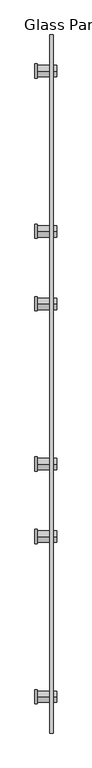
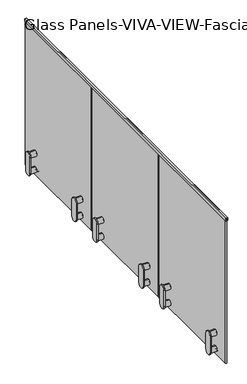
"""IFC4 building model written with IfcOpenShell, lengths in millimetres: railing geometry, Glass Panels-VIVA-VIEW-Fascia-Plate-Straight."""

from ifc_helpers import new_model, si_unit, point, frame, frame_2d, origin, place, context, project, spatial, polyline, circle_curve, trimmed, segment, composite_curve, outline, extrude, source, transform, mapped, element, save
from ifc_brep_helpers import plane_surface, cylinder_surface, advanced_brep


def glass_panels_viva_view_fascia_plate_straight_46a01e7d(model_context):
    return source(origin(), model_context, "Body", "SolidModel", [
        extrude(outline(polyline([(4140.2, 25056.3264963), (4114.8, 25056.3264963), (4114.8, 25057.9139963), (4138.6125, 25057.9139963), (4138.6125, 25070.6139963), (4114.8, 25070.6139963), (4114.8, 25072.2014963), (4140.2, 25072.2014963), (4140.2, 25056.3264963)])), frame((0.0, -11437.3346054, 0.0), z_axis=(0.0, 1.0, 0.0), x_axis=(0.0, 0.0, 1.0)), (0.0, 0.0, 1.0), 3098.8),
        advanced_brep(
        [(25088.0762024, -9210.2182255, 2794.0), (25088.0762024, -9210.2182255, 2844.8), (25088.0762024, -9210.2182255, 2819.4), (25070.6137024, -9210.2182255, 2794.0), (25070.6137024, -9210.2182255, 2844.8), (25070.6137024, -9210.2182255, 2813.685), (25070.6137024, -9210.2182255, 2825.115), (25057.9137024, -9210.2182255, 2813.685), (25057.9137024, -9210.2182255, 2825.115), (25057.9137024, -9210.2182255, 2794.0), (25057.9137024, -9210.2182255, 2844.8), (25000.7638494, -9210.2182255, 2794.0), (25000.7638494, -9210.2182255, 2844.8), (25000.7638494, -9210.2182255, 2819.4)],
        [
            (0, 1, circle_curve(frame((25088.0762024, -9210.2182255, 2819.4), z_axis=(1.0, 0.0, 0.0), x_axis=(0.0, 0.0, 1.0)), 25.4)),
            (1, 2),
            (2, 0),
            (1, 0, circle_curve(frame((25088.0762024, -9210.2182255, 2819.4), z_axis=(1.0, 0.0, 0.0), x_axis=(0.0, 0.0, 1.0)), 25.4)),
            (3, 4, circle_curve(frame((25070.6137024, -9210.2182255, 2819.4), z_axis=(1.0, 0.0, 0.0), x_axis=(0.0, 0.0, 1.0)), 25.4)),
            (4, 1),
            (0, 3),
            (4, 3, circle_curve(frame((25070.6137024, -9210.2182255, 2819.4), z_axis=(1.0, 0.0, 0.0), x_axis=(0.0, 0.0, 1.0)), 25.4)),
            (5, 6, circle_curve(frame((25070.6137024, -9210.2182255, 2819.4), z_axis=(1.0, 0.0, 0.0), x_axis=(0.0, 0.0, 1.0)), 5.715)),
            (6, 4),
            (3, 5),
            (6, 5, circle_curve(frame((25070.6137024, -9210.2182255, 2819.4), z_axis=(1.0, 0.0, 0.0), x_axis=(0.0, 0.0, 1.0)), 5.715)),
            (7, 8, circle_curve(frame((25057.9137024, -9210.2182255, 2819.4), z_axis=(1.0, 0.0, 0.0), x_axis=(0.0, 0.0, 1.0)), 5.715)),
            (8, 6),
            (5, 7),
            (8, 7, circle_curve(frame((25057.9137024, -9210.2182255, 2819.4), z_axis=(1.0, 0.0, 0.0), x_axis=(0.0, 0.0, 1.0)), 5.715)),
            (9, 10, circle_curve(frame((25057.9137024, -9210.2182255, 2819.4), z_axis=(1.0, 0.0, 0.0), x_axis=(0.0, 0.0, 1.0)), 25.4)),
            (10, 8),
            (7, 9),
            (10, 9, circle_curve(frame((25057.9137024, -9210.2182255, 2819.4), z_axis=(1.0, 0.0, 0.0), x_axis=(0.0, 0.0, 1.0)), 25.4)),
            (11, 12, circle_curve(frame((25000.7638494, -9210.2182255, 2819.4), z_axis=(1.0, 0.0, 0.0), x_axis=(0.0, 0.0, 1.0)), 25.4)),
            (12, 10),
            (9, 11),
            (12, 11, circle_curve(frame((25000.7638494, -9210.2182255, 2819.4), z_axis=(1.0, 0.0, 0.0), x_axis=(0.0, 0.0, 1.0)), 25.4)),
            (13, 12),
            (11, 13),
        ],
        [
            plane_surface(frame((25088.0762024, -9210.2182255, 2819.4), z_axis=(1.0, 0.0, 0.0), x_axis=(0.0, 0.0, 1.0))),
            cylinder_surface(frame((25156.3388494, -9210.2182255, 2819.4), z_axis=(-1.0, 0.0, 0.0), x_axis=(0.0, 0.0, 1.0)), 25.4),
            plane_surface(frame((25070.6137024, -9210.2182255, 2819.4), z_axis=(-1.0, 0.0, 0.0), x_axis=(0.0, 0.0, 1.0))),
            cylinder_surface(frame((25156.3388494, -9210.2182255, 2819.4), z_axis=(-1.0, 0.0, 0.0), x_axis=(0.0, 0.0, 1.0)), 5.715),
            plane_surface(frame((25057.9137024, -9210.2182255, 2819.4), z_axis=(1.0, 0.0, 0.0), x_axis=(0.0, 0.0, 1.0))),
            plane_surface(frame((25000.7638494, -9210.2182255, 2819.4), z_axis=(-1.0, 0.0, 0.0), x_axis=(0.0, 0.0, 1.0))),
        ],
        [
            (0, [[1, 2, 3]]),
            (0, [[4, -3, -2]]),
            (1, [[5, 6, -1, 7]]),
            (1, [[8, -7, -4, -6]]),
            (2, [[9, 10, -5, 11]]),
            (2, [[12, -11, -8, -10]]),
            (3, [[13, 14, -9, 15]]),
            (3, [[16, -15, -12, -14]]),
            (4, [[17, 18, -13, 19]]),
            (4, [[20, -19, -16, -18]]),
            (1, [[21, 22, -17, 23]]),
            (1, [[24, -23, -20, -22]]),
            (5, [[25, -21, 26]]),
            (5, [[-26, -24, -25]]),
        ],
    ),
        advanced_brep(
        [(25070.6137024, -9210.2182255, 2966.085), (25070.6137024, -9210.2182255, 2977.515), (25070.6137024, -9210.2182255, 2997.2), (25070.6137024, -9210.2182255, 2946.4), (25057.9137024, -9210.2182255, 2966.085), (25057.9137024, -9210.2182255, 2977.515), (25057.9137024, -9210.2182255, 2946.4), (25057.9137024, -9210.2182255, 2997.2), (25000.7638494, -9210.2182255, 2946.4), (25000.7638494, -9210.2182255, 2997.2), (25000.7638494, -9210.2182255, 2971.8), (25088.0762024, -9210.2182255, 2946.4), (25088.0762024, -9210.2182255, 2997.2), (25088.0762024, -9210.2182255, 2971.8)],
        [
            (0, 1, circle_curve(frame((25070.6137024, -9210.2182255, 2971.8), z_axis=(1.0, 0.0, 0.0), x_axis=(0.0, 0.0, 1.0)), 5.715)),
            (1, 2),
            (2, 3, circle_curve(frame((25070.6137024, -9210.2182255, 2971.8), z_axis=(-1.0, 0.0, 0.0), x_axis=(0.0, 0.0, 1.0)), 25.4)),
            (3, 0),
            (1, 0, circle_curve(frame((25070.6137024, -9210.2182255, 2971.8), z_axis=(1.0, 0.0, 0.0), x_axis=(0.0, 0.0, 1.0)), 5.715)),
            (3, 2, circle_curve(frame((25070.6137024, -9210.2182255, 2971.8), z_axis=(-1.0, 0.0, 0.0), x_axis=(0.0, 0.0, 1.0)), 25.4)),
            (4, 5, circle_curve(frame((25057.9137024, -9210.2182255, 2971.8), z_axis=(1.0, 0.0, 0.0), x_axis=(0.0, 0.0, 1.0)), 5.715)),
            (5, 1),
            (0, 4),
            (5, 4, circle_curve(frame((25057.9137024, -9210.2182255, 2971.8), z_axis=(1.0, 0.0, 0.0), x_axis=(0.0, 0.0, 1.0)), 5.715)),
            (6, 7, circle_curve(frame((25057.9137024, -9210.2182255, 2971.8), z_axis=(1.0, 0.0, 0.0), x_axis=(0.0, 0.0, 1.0)), 25.4)),
            (7, 5),
            (4, 6),
            (7, 6, circle_curve(frame((25057.9137024, -9210.2182255, 2971.8), z_axis=(1.0, 0.0, 0.0), x_axis=(0.0, 0.0, 1.0)), 25.4)),
            (8, 9, circle_curve(frame((25000.7638494, -9210.2182255, 2971.8), z_axis=(1.0, 0.0, 0.0), x_axis=(0.0, 0.0, 1.0)), 25.4)),
            (9, 7),
            (6, 8),
            (9, 8, circle_curve(frame((25000.7638494, -9210.2182255, 2971.8), z_axis=(1.0, 0.0, 0.0), x_axis=(0.0, 0.0, 1.0)), 25.4)),
            (10, 9),
            (8, 10),
            (11, 12, circle_curve(frame((25088.0762024, -9210.2182255, 2971.8), z_axis=(1.0, 0.0, 0.0), x_axis=(0.0, 0.0, 1.0)), 25.4)),
            (12, 13),
            (13, 11),
            (12, 11, circle_curve(frame((25088.0762024, -9210.2182255, 2971.8), z_axis=(1.0, 0.0, 0.0), x_axis=(0.0, 0.0, 1.0)), 25.4)),
            (2, 12),
            (11, 3),
        ],
        [
            plane_surface(frame((25070.6137024, -9210.2182255, 2971.8), z_axis=(-1.0, 0.0, 0.0), x_axis=(0.0, 0.0, 1.0))),
            cylinder_surface(frame((25156.3388494, -9210.2182255, 2971.8), z_axis=(-1.0, 0.0, 0.0), x_axis=(0.0, 0.0, 1.0)), 5.715),
            plane_surface(frame((25057.9137024, -9210.2182255, 2971.8), z_axis=(1.0, 0.0, 0.0), x_axis=(0.0, 0.0, 1.0))),
            cylinder_surface(frame((25156.3388494, -9210.2182255, 2971.8), z_axis=(-1.0, 0.0, 0.0), x_axis=(0.0, 0.0, 1.0)), 25.4),
            plane_surface(frame((25000.7638494, -9210.2182255, 2971.8), z_axis=(-1.0, 0.0, 0.0), x_axis=(0.0, 0.0, 1.0))),
            plane_surface(frame((25088.0762024, -9210.2182255, 2971.8), z_axis=(1.0, 0.0, 0.0), x_axis=(0.0, 0.0, 1.0))),
        ],
        [
            (0, [[1, 2, 3, 4]]),
            (0, [[5, -4, 6, -2]]),
            (1, [[7, 8, -1, 9]]),
            (1, [[10, -9, -5, -8]]),
            (2, [[11, 12, -7, 13]]),
            (2, [[14, -13, -10, -12]]),
            (3, [[15, 16, -11, 17]]),
            (3, [[18, -17, -14, -16]]),
            (4, [[19, -15, 20]]),
            (4, [[-20, -18, -19]]),
            (5, [[21, 22, 23]]),
            (5, [[24, -23, -22]]),
            (3, [[-3, 25, -21, 26]]),
            (3, [[-6, -26, -24, -25]]),
        ],
    ),
        extrude(outline(composite_curve([segment(trimmed(circle_curve(frame_2d((-9210.2182255, 2971.8)), 31.75), [point((-9241.9682255, 2971.8))], [point((-9178.4682255, 2971.8))], False, "CARTESIAN"), True, "CONTINUOUS"), segment(polyline([(-9178.4682255, 2971.8), (-9178.4682255, 2819.4)]), True, "CONTINUOUS"), segment(trimmed(circle_curve(frame_2d((-9210.2182255, 2819.4)), 31.75), [point((-9178.4682255, 2819.4))], [point((-9241.9682255, 2819.4))], False, "CARTESIAN"), True, "CONTINUOUS"), segment(polyline([(-9241.9682255, 2819.4), (-9241.9682255, 2971.8)]), True, "CONTINUOUS")], self_intersect=False)), frame((24991.2388494, 0.0, 0.0), z_axis=(1.0, 0.0, 0.0), x_axis=(0.0, 1.0, 0.0)), (0.0, 0.0, 1.0), 9.525),
        advanced_brep(
        [(25088.0762024, -8499.0182255, 2794.0), (25088.0762024, -8499.0182255, 2844.8), (25088.0762024, -8499.0182255, 2819.4), (25070.6137024, -8499.0182255, 2794.0), (25070.6137024, -8499.0182255, 2844.8), (25070.6137024, -8499.0182255, 2813.685), (25070.6137024, -8499.0182255, 2825.115), (25057.9137024, -8499.0182255, 2813.685), (25057.9137024, -8499.0182255, 2825.115), (25057.9137024, -8499.0182255, 2794.0), (25057.9137024, -8499.0182255, 2844.8), (25000.7638494, -8499.0182255, 2794.0), (25000.7638494, -8499.0182255, 2844.8), (25000.7638494, -8499.0182255, 2819.4)],
        [
            (0, 1, circle_curve(frame((25088.0762024, -8499.0182255, 2819.4), z_axis=(1.0, 0.0, 0.0), x_axis=(0.0, 0.0, 1.0)), 25.4)),
            (1, 2),
            (2, 0),
            (1, 0, circle_curve(frame((25088.0762024, -8499.0182255, 2819.4), z_axis=(1.0, 0.0, 0.0), x_axis=(0.0, 0.0, 1.0)), 25.4)),
            (3, 4, circle_curve(frame((25070.6137024, -8499.0182255, 2819.4), z_axis=(1.0, 0.0, 0.0), x_axis=(0.0, 0.0, 1.0)), 25.4)),
            (4, 1),
            (0, 3),
            (4, 3, circle_curve(frame((25070.6137024, -8499.0182255, 2819.4), z_axis=(1.0, 0.0, 0.0), x_axis=(0.0, 0.0, 1.0)), 25.4)),
            (5, 6, circle_curve(frame((25070.6137024, -8499.0182255, 2819.4), z_axis=(1.0, 0.0, 0.0), x_axis=(0.0, 0.0, 1.0)), 5.715)),
            (6, 4),
            (3, 5),
            (6, 5, circle_curve(frame((25070.6137024, -8499.0182255, 2819.4), z_axis=(1.0, 0.0, 0.0), x_axis=(0.0, 0.0, 1.0)), 5.715)),
            (7, 8, circle_curve(frame((25057.9137024, -8499.0182255, 2819.4), z_axis=(1.0, 0.0, 0.0), x_axis=(0.0, 0.0, 1.0)), 5.715)),
            (8, 6),
            (5, 7),
            (8, 7, circle_curve(frame((25057.9137024, -8499.0182255, 2819.4), z_axis=(1.0, 0.0, 0.0), x_axis=(0.0, 0.0, 1.0)), 5.715)),
            (9, 10, circle_curve(frame((25057.9137024, -8499.0182255, 2819.4), z_axis=(1.0, 0.0, 0.0), x_axis=(0.0, 0.0, 1.0)), 25.4)),
            (10, 8),
            (7, 9),
            (10, 9, circle_curve(frame((25057.9137024, -8499.0182255, 2819.4), z_axis=(1.0, 0.0, 0.0), x_axis=(0.0, 0.0, 1.0)), 25.4)),
            (11, 12, circle_curve(frame((25000.7638494, -8499.0182255, 2819.4), z_axis=(1.0, 0.0, 0.0), x_axis=(0.0, 0.0, 1.0)), 25.4)),
            (12, 10),
            (9, 11),
            (12, 11, circle_curve(frame((25000.7638494, -8499.0182255, 2819.4), z_axis=(1.0, 0.0, 0.0), x_axis=(0.0, 0.0, 1.0)), 25.4)),
            (13, 12),
            (11, 13),
        ],
        [
            plane_surface(frame((25088.0762024, -8499.0182255, 2819.4), z_axis=(1.0, 0.0, 0.0), x_axis=(0.0, 0.0, 1.0))),
            cylinder_surface(frame((25156.3388494, -8499.0182255, 2819.4), z_axis=(-1.0, 0.0, 0.0), x_axis=(0.0, 0.0, 1.0)), 25.4),
            plane_surface(frame((25070.6137024, -8499.0182255, 2819.4), z_axis=(-1.0, 0.0, 0.0), x_axis=(0.0, 0.0, 1.0))),
            cylinder_surface(frame((25156.3388494, -8499.0182255, 2819.4), z_axis=(-1.0, 0.0, 0.0), x_axis=(0.0, 0.0, 1.0)), 5.715),
            plane_surface(frame((25057.9137024, -8499.0182255, 2819.4), z_axis=(1.0, 0.0, 0.0), x_axis=(0.0, 0.0, 1.0))),
            plane_surface(frame((25000.7638494, -8499.0182255, 2819.4), z_axis=(-1.0, 0.0, 0.0), x_axis=(0.0, 0.0, 1.0))),
        ],
        [
            (0, [[1, 2, 3]]),
            (0, [[4, -3, -2]]),
            (1, [[5, 6, -1, 7]]),
            (1, [[8, -7, -4, -6]]),
            (2, [[9, 10, -5, 11]]),
            (2, [[12, -11, -8, -10]]),
            (3, [[13, 14, -9, 15]]),
            (3, [[16, -15, -12, -14]]),
            (4, [[17, 18, -13, 19]]),
            (4, [[20, -19, -16, -18]]),
            (1, [[21, 22, -17, 23]]),
            (1, [[24, -23, -20, -22]]),
            (5, [[25, -21, 26]]),
            (5, [[-26, -24, -25]]),
        ],
    ),
        advanced_brep(
        [(25070.6137024, -8499.0182255, 2966.085), (25070.6137024, -8499.0182255, 2977.515), (25070.6137024, -8499.0182255, 2997.2), (25070.6137024, -8499.0182255, 2946.4), (25057.9137024, -8499.0182255, 2966.085), (25057.9137024, -8499.0182255, 2977.515), (25057.9137024, -8499.0182255, 2946.4), (25057.9137024, -8499.0182255, 2997.2), (25000.7638494, -8499.0182255, 2946.4), (25000.7638494, -8499.0182255, 2997.2), (25000.7638494, -8499.0182255, 2971.8), (25088.0762024, -8499.0182255, 2946.4), (25088.0762024, -8499.0182255, 2997.2), (25088.0762024, -8499.0182255, 2971.8)],
        [
            (0, 1, circle_curve(frame((25070.6137024, -8499.0182255, 2971.8), z_axis=(1.0, 0.0, 0.0), x_axis=(0.0, 0.0, 1.0)), 5.715)),
            (1, 2),
            (2, 3, circle_curve(frame((25070.6137024, -8499.0182255, 2971.8), z_axis=(-1.0, 0.0, 0.0), x_axis=(0.0, 0.0, 1.0)), 25.4)),
            (3, 0),
            (1, 0, circle_curve(frame((25070.6137024, -8499.0182255, 2971.8), z_axis=(1.0, 0.0, 0.0), x_axis=(0.0, 0.0, 1.0)), 5.715)),
            (3, 2, circle_curve(frame((25070.6137024, -8499.0182255, 2971.8), z_axis=(-1.0, 0.0, 0.0), x_axis=(0.0, 0.0, 1.0)), 25.4)),
            (4, 5, circle_curve(frame((25057.9137024, -8499.0182255, 2971.8), z_axis=(1.0, 0.0, 0.0), x_axis=(0.0, 0.0, 1.0)), 5.715)),
            (5, 1),
            (0, 4),
            (5, 4, circle_curve(frame((25057.9137024, -8499.0182255, 2971.8), z_axis=(1.0, 0.0, 0.0), x_axis=(0.0, 0.0, 1.0)), 5.715)),
            (6, 7, circle_curve(frame((25057.9137024, -8499.0182255, 2971.8), z_axis=(1.0, 0.0, 0.0), x_axis=(0.0, 0.0, 1.0)), 25.4)),
            (7, 5),
            (4, 6),
            (7, 6, circle_curve(frame((25057.9137024, -8499.0182255, 2971.8), z_axis=(1.0, 0.0, 0.0), x_axis=(0.0, 0.0, 1.0)), 25.4)),
            (8, 9, circle_curve(frame((25000.7638494, -8499.0182255, 2971.8), z_axis=(1.0, 0.0, 0.0), x_axis=(0.0, 0.0, 1.0)), 25.4)),
            (9, 7),
            (6, 8),
            (9, 8, circle_curve(frame((25000.7638494, -8499.0182255, 2971.8), z_axis=(1.0, 0.0, 0.0), x_axis=(0.0, 0.0, 1.0)), 25.4)),
            (10, 9),
            (8, 10),
            (11, 12, circle_curve(frame((25088.0762024, -8499.0182255, 2971.8), z_axis=(1.0, 0.0, 0.0), x_axis=(0.0, 0.0, 1.0)), 25.4)),
            (12, 13),
            (13, 11),
            (12, 11, circle_curve(frame((25088.0762024, -8499.0182255, 2971.8), z_axis=(1.0, 0.0, 0.0), x_axis=(0.0, 0.0, 1.0)), 25.4)),
            (2, 12),
            (11, 3),
        ],
        [
            plane_surface(frame((25070.6137024, -8499.0182255, 2971.8), z_axis=(-1.0, 0.0, 0.0), x_axis=(0.0, 0.0, 1.0))),
            cylinder_surface(frame((25156.3388494, -8499.0182255, 2971.8), z_axis=(-1.0, 0.0, 0.0), x_axis=(0.0, 0.0, 1.0)), 5.715),
            plane_surface(frame((25057.9137024, -8499.0182255, 2971.8), z_axis=(1.0, 0.0, 0.0), x_axis=(0.0, 0.0, 1.0))),
            cylinder_surface(frame((25156.3388494, -8499.0182255, 2971.8), z_axis=(-1.0, 0.0, 0.0), x_axis=(0.0, 0.0, 1.0)), 25.4),
            plane_surface(frame((25000.7638494, -8499.0182255, 2971.8), z_axis=(-1.0, 0.0, 0.0), x_axis=(0.0, 0.0, 1.0))),
            plane_surface(frame((25088.0762024, -8499.0182255, 2971.8), z_axis=(1.0, 0.0, 0.0), x_axis=(0.0, 0.0, 1.0))),
        ],
        [
            (0, [[1, 2, 3, 4]]),
            (0, [[5, -4, 6, -2]]),
            (1, [[7, 8, -1, 9]]),
            (1, [[10, -9, -5, -8]]),
            (2, [[11, 12, -7, 13]]),
            (2, [[14, -13, -10, -12]]),
            (3, [[15, 16, -11, 17]]),
            (3, [[18, -17, -14, -16]]),
            (4, [[19, -15, 20]]),
            (4, [[-20, -18, -19]]),
            (5, [[21, 22, 23]]),
            (5, [[24, -23, -22]]),
            (3, [[-3, 25, -21, 26]]),
            (3, [[-6, -26, -24, -25]]),
        ],
    ),
        extrude(outline(composite_curve([segment(trimmed(circle_curve(frame_2d((-8499.0182255, 2971.8)), 31.75), [point((-8530.7682255, 2971.8))], [point((-8467.2682255, 2971.8))], False, "CARTESIAN"), True, "CONTINUOUS"), segment(polyline([(-8467.2682255, 2971.8), (-8467.2682255, 2819.4)]), True, "CONTINUOUS"), segment(trimmed(circle_curve(frame_2d((-8499.0182255, 2819.4)), 31.75), [point((-8467.2682255, 2819.4))], [point((-8530.7682255, 2819.4))], False, "CARTESIAN"), True, "CONTINUOUS"), segment(polyline([(-8530.7682255, 2819.4), (-8530.7682255, 2971.8)]), True, "CONTINUOUS")], self_intersect=False)), frame((24991.2388494, 0.0, 0.0), z_axis=(1.0, 0.0, 0.0), x_axis=(0.0, 1.0, 0.0)), (0.0, 0.0, 1.0), 9.525),
        extrude(outline(polyline([(25057.9139963, -9362.6182255), (25057.9139963, -8346.6182255), (25070.6139963, -8346.6182255), (25070.6139963, -9362.6182255), (25057.9139963, -9362.6182255)])), frame((0.0, 0.0, 2768.6), z_axis=(0.0, 0.0, 1.0), x_axis=(1.0, 0.0, 0.0)), (0.0, 0.0, 1.0), 1370.0125),
        advanced_brep(
        [(25088.0762024, -10243.1515588, 2794.0), (25088.0762024, -10243.1515588, 2844.8), (25088.0762024, -10243.1515588, 2819.4), (25070.6137024, -10243.1515588, 2794.0), (25070.6137024, -10243.1515588, 2844.8), (25070.6137024, -10243.1515588, 2813.685), (25070.6137024, -10243.1515588, 2825.115), (25057.9137024, -10243.1515588, 2813.685), (25057.9137024, -10243.1515588, 2825.115), (25057.9137024, -10243.1515588, 2794.0), (25057.9137024, -10243.1515588, 2844.8), (25000.7638494, -10243.1515588, 2794.0), (25000.7638494, -10243.1515588, 2844.8), (25000.7638494, -10243.1515588, 2819.4)],
        [
            (0, 1, circle_curve(frame((25088.0762024, -10243.1515588, 2819.4), z_axis=(1.0, 0.0, 0.0), x_axis=(0.0, 0.0, 1.0)), 25.4)),
            (1, 2),
            (2, 0),
            (1, 0, circle_curve(frame((25088.0762024, -10243.1515588, 2819.4), z_axis=(1.0, 0.0, 0.0), x_axis=(0.0, 0.0, 1.0)), 25.4)),
            (3, 4, circle_curve(frame((25070.6137024, -10243.1515588, 2819.4), z_axis=(1.0, 0.0, 0.0), x_axis=(0.0, 0.0, 1.0)), 25.4)),
            (4, 1),
            (0, 3),
            (4, 3, circle_curve(frame((25070.6137024, -10243.1515588, 2819.4), z_axis=(1.0, 0.0, 0.0), x_axis=(0.0, 0.0, 1.0)), 25.4)),
            (5, 6, circle_curve(frame((25070.6137024, -10243.1515588, 2819.4), z_axis=(1.0, 0.0, 0.0), x_axis=(0.0, 0.0, 1.0)), 5.715)),
            (6, 4),
            (3, 5),
            (6, 5, circle_curve(frame((25070.6137024, -10243.1515588, 2819.4), z_axis=(1.0, 0.0, 0.0), x_axis=(0.0, 0.0, 1.0)), 5.715)),
            (7, 8, circle_curve(frame((25057.9137024, -10243.1515588, 2819.4), z_axis=(1.0, 0.0, 0.0), x_axis=(0.0, 0.0, 1.0)), 5.715)),
            (8, 6),
            (5, 7),
            (8, 7, circle_curve(frame((25057.9137024, -10243.1515588, 2819.4), z_axis=(1.0, 0.0, 0.0), x_axis=(0.0, 0.0, 1.0)), 5.715)),
            (9, 10, circle_curve(frame((25057.9137024, -10243.1515588, 2819.4), z_axis=(1.0, 0.0, 0.0), x_axis=(0.0, 0.0, 1.0)), 25.4)),
            (10, 8),
            (7, 9),
            (10, 9, circle_curve(frame((25057.9137024, -10243.1515588, 2819.4), z_axis=(1.0, 0.0, 0.0), x_axis=(0.0, 0.0, 1.0)), 25.4)),
            (11, 12, circle_curve(frame((25000.7638494, -10243.1515588, 2819.4), z_axis=(1.0, 0.0, 0.0), x_axis=(0.0, 0.0, 1.0)), 25.4)),
            (12, 10),
            (9, 11),
            (12, 11, circle_curve(frame((25000.7638494, -10243.1515588, 2819.4), z_axis=(1.0, 0.0, 0.0), x_axis=(0.0, 0.0, 1.0)), 25.4)),
            (13, 12),
            (11, 13),
        ],
        [
            plane_surface(frame((25088.0762024, -10243.1515588, 2819.4), z_axis=(1.0, 0.0, 0.0), x_axis=(0.0, 0.0, 1.0))),
            cylinder_surface(frame((25156.3388494, -10243.1515588, 2819.4), z_axis=(-1.0, 0.0, 0.0), x_axis=(0.0, 0.0, 1.0)), 25.4),
            plane_surface(frame((25070.6137024, -10243.1515588, 2819.4), z_axis=(-1.0, 0.0, 0.0), x_axis=(0.0, 0.0, 1.0))),
            cylinder_surface(frame((25156.3388494, -10243.1515588, 2819.4), z_axis=(-1.0, 0.0, 0.0), x_axis=(0.0, 0.0, 1.0)), 5.715),
            plane_surface(frame((25057.9137024, -10243.1515588, 2819.4), z_axis=(1.0, 0.0, 0.0), x_axis=(0.0, 0.0, 1.0))),
            plane_surface(frame((25000.7638494, -10243.1515588, 2819.4), z_axis=(-1.0, 0.0, 0.0), x_axis=(0.0, 0.0, 1.0))),
        ],
        [
            (0, [[1, 2, 3]]),
            (0, [[4, -3, -2]]),
            (1, [[5, 6, -1, 7]]),
            (1, [[8, -7, -4, -6]]),
            (2, [[9, 10, -5, 11]]),
            (2, [[12, -11, -8, -10]]),
            (3, [[13, 14, -9, 15]]),
            (3, [[16, -15, -12, -14]]),
            (4, [[17, 18, -13, 19]]),
            (4, [[20, -19, -16, -18]]),
            (1, [[21, 22, -17, 23]]),
            (1, [[24, -23, -20, -22]]),
            (5, [[25, -21, 26]]),
            (5, [[-26, -24, -25]]),
        ],
    ),
        advanced_brep(
        [(25070.6137024, -10243.1515588, 2966.085), (25070.6137024, -10243.1515588, 2977.515), (25070.6137024, -10243.1515588, 2997.2), (25070.6137024, -10243.1515588, 2946.4), (25057.9137024, -10243.1515588, 2966.085), (25057.9137024, -10243.1515588, 2977.515), (25057.9137024, -10243.1515588, 2946.4), (25057.9137024, -10243.1515588, 2997.2), (25000.7638494, -10243.1515588, 2946.4), (25000.7638494, -10243.1515588, 2997.2), (25000.7638494, -10243.1515588, 2971.8), (25088.0762024, -10243.1515588, 2946.4), (25088.0762024, -10243.1515588, 2997.2), (25088.0762024, -10243.1515588, 2971.8)],
        [
            (0, 1, circle_curve(frame((25070.6137024, -10243.1515588, 2971.8), z_axis=(1.0, 0.0, 0.0), x_axis=(0.0, 0.0, 1.0)), 5.715)),
            (1, 2),
            (2, 3, circle_curve(frame((25070.6137024, -10243.1515588, 2971.8), z_axis=(-1.0, 0.0, 0.0), x_axis=(0.0, 0.0, 1.0)), 25.4)),
            (3, 0),
            (1, 0, circle_curve(frame((25070.6137024, -10243.1515588, 2971.8), z_axis=(1.0, 0.0, 0.0), x_axis=(0.0, 0.0, 1.0)), 5.715)),
            (3, 2, circle_curve(frame((25070.6137024, -10243.1515588, 2971.8), z_axis=(-1.0, 0.0, 0.0), x_axis=(0.0, 0.0, 1.0)), 25.4)),
            (4, 5, circle_curve(frame((25057.9137024, -10243.1515588, 2971.8), z_axis=(1.0, 0.0, 0.0), x_axis=(0.0, 0.0, 1.0)), 5.715)),
            (5, 1),
            (0, 4),
            (5, 4, circle_curve(frame((25057.9137024, -10243.1515588, 2971.8), z_axis=(1.0, 0.0, 0.0), x_axis=(0.0, 0.0, 1.0)), 5.715)),
            (6, 7, circle_curve(frame((25057.9137024, -10243.1515588, 2971.8), z_axis=(1.0, 0.0, 0.0), x_axis=(0.0, 0.0, 1.0)), 25.4)),
            (7, 5),
            (4, 6),
            (7, 6, circle_curve(frame((25057.9137024, -10243.1515588, 2971.8), z_axis=(1.0, 0.0, 0.0), x_axis=(0.0, 0.0, 1.0)), 25.4)),
            (8, 9, circle_curve(frame((25000.7638494, -10243.1515588, 2971.8), z_axis=(1.0, 0.0, 0.0), x_axis=(0.0, 0.0, 1.0)), 25.4)),
            (9, 7),
            (6, 8),
            (9, 8, circle_curve(frame((25000.7638494, -10243.1515588, 2971.8), z_axis=(1.0, 0.0, 0.0), x_axis=(0.0, 0.0, 1.0)), 25.4)),
            (10, 9),
            (8, 10),
            (11, 12, circle_curve(frame((25088.0762024, -10243.1515588, 2971.8), z_axis=(1.0, 0.0, 0.0), x_axis=(0.0, 0.0, 1.0)), 25.4)),
            (12, 13),
            (13, 11),
            (12, 11, circle_curve(frame((25088.0762024, -10243.1515588, 2971.8), z_axis=(1.0, 0.0, 0.0), x_axis=(0.0, 0.0, 1.0)), 25.4)),
            (2, 12),
            (11, 3),
        ],
        [
            plane_surface(frame((25070.6137024, -10243.1515588, 2971.8), z_axis=(-1.0, 0.0, 0.0), x_axis=(0.0, 0.0, 1.0))),
            cylinder_surface(frame((25156.3388494, -10243.1515588, 2971.8), z_axis=(-1.0, 0.0, 0.0), x_axis=(0.0, 0.0, 1.0)), 5.715),
            plane_surface(frame((25057.9137024, -10243.1515588, 2971.8), z_axis=(1.0, 0.0, 0.0), x_axis=(0.0, 0.0, 1.0))),
            cylinder_surface(frame((25156.3388494, -10243.1515588, 2971.8), z_axis=(-1.0, 0.0, 0.0), x_axis=(0.0, 0.0, 1.0)), 25.4),
            plane_surface(frame((25000.7638494, -10243.1515588, 2971.8), z_axis=(-1.0, 0.0, 0.0), x_axis=(0.0, 0.0, 1.0))),
            plane_surface(frame((25088.0762024, -10243.1515588, 2971.8), z_axis=(1.0, 0.0, 0.0), x_axis=(0.0, 0.0, 1.0))),
        ],
        [
            (0, [[1, 2, 3, 4]]),
            (0, [[5, -4, 6, -2]]),
            (1, [[7, 8, -1, 9]]),
            (1, [[10, -9, -5, -8]]),
            (2, [[11, 12, -7, 13]]),
            (2, [[14, -13, -10, -12]]),
            (3, [[15, 16, -11, 17]]),
            (3, [[18, -17, -14, -16]]),
            (4, [[19, -15, 20]]),
            (4, [[-20, -18, -19]]),
            (5, [[21, 22, 23]]),
            (5, [[24, -23, -22]]),
            (3, [[-3, 25, -21, 26]]),
            (3, [[-6, -26, -24, -25]]),
        ],
    ),
        extrude(outline(composite_curve([segment(trimmed(circle_curve(frame_2d((-10243.1515588, 2971.8)), 31.75), [point((-10274.9015588, 2971.8))], [point((-10211.4015588, 2971.8))], False, "CARTESIAN"), True, "CONTINUOUS"), segment(polyline([(-10211.4015588, 2971.8), (-10211.4015588, 2819.4)]), True, "CONTINUOUS"), segment(trimmed(circle_curve(frame_2d((-10243.1515588, 2819.4)), 31.75), [point((-10211.4015588, 2819.4))], [point((-10274.9015588, 2819.4))], False, "CARTESIAN"), True, "CONTINUOUS"), segment(polyline([(-10274.9015588, 2819.4), (-10274.9015588, 2971.8)]), True, "CONTINUOUS")], self_intersect=False)), frame((24991.2388494, 0.0, 0.0), z_axis=(1.0, 0.0, 0.0), x_axis=(0.0, 1.0, 0.0)), (0.0, 0.0, 1.0), 9.525),
        advanced_brep(
        [(25088.0762024, -9531.9515588, 2794.0), (25088.0762024, -9531.9515588, 2844.8), (25088.0762024, -9531.9515588, 2819.4), (25070.6137024, -9531.9515588, 2794.0), (25070.6137024, -9531.9515588, 2844.8), (25070.6137024, -9531.9515588, 2813.685), (25070.6137024, -9531.9515588, 2825.115), (25057.9137024, -9531.9515588, 2813.685), (25057.9137024, -9531.9515588, 2825.115), (25057.9137024, -9531.9515588, 2794.0), (25057.9137024, -9531.9515588, 2844.8), (25000.7638494, -9531.9515588, 2794.0), (25000.7638494, -9531.9515588, 2844.8), (25000.7638494, -9531.9515588, 2819.4)],
        [
            (0, 1, circle_curve(frame((25088.0762024, -9531.9515588, 2819.4), z_axis=(1.0, 0.0, 0.0), x_axis=(0.0, 0.0, 1.0)), 25.4)),
            (1, 2),
            (2, 0),
            (1, 0, circle_curve(frame((25088.0762024, -9531.9515588, 2819.4), z_axis=(1.0, 0.0, 0.0), x_axis=(0.0, 0.0, 1.0)), 25.4)),
            (3, 4, circle_curve(frame((25070.6137024, -9531.9515588, 2819.4), z_axis=(1.0, 0.0, 0.0), x_axis=(0.0, 0.0, 1.0)), 25.4)),
            (4, 1),
            (0, 3),
            (4, 3, circle_curve(frame((25070.6137024, -9531.9515588, 2819.4), z_axis=(1.0, 0.0, 0.0), x_axis=(0.0, 0.0, 1.0)), 25.4)),
            (5, 6, circle_curve(frame((25070.6137024, -9531.9515588, 2819.4), z_axis=(1.0, 0.0, 0.0), x_axis=(0.0, 0.0, 1.0)), 5.715)),
            (6, 4),
            (3, 5),
            (6, 5, circle_curve(frame((25070.6137024, -9531.9515588, 2819.4), z_axis=(1.0, 0.0, 0.0), x_axis=(0.0, 0.0, 1.0)), 5.715)),
            (7, 8, circle_curve(frame((25057.9137024, -9531.9515588, 2819.4), z_axis=(1.0, 0.0, 0.0), x_axis=(0.0, 0.0, 1.0)), 5.715)),
            (8, 6),
            (5, 7),
            (8, 7, circle_curve(frame((25057.9137024, -9531.9515588, 2819.4), z_axis=(1.0, 0.0, 0.0), x_axis=(0.0, 0.0, 1.0)), 5.715)),
            (9, 10, circle_curve(frame((25057.9137024, -9531.9515588, 2819.4), z_axis=(1.0, 0.0, 0.0), x_axis=(0.0, 0.0, 1.0)), 25.4)),
            (10, 8),
            (7, 9),
            (10, 9, circle_curve(frame((25057.9137024, -9531.9515588, 2819.4), z_axis=(1.0, 0.0, 0.0), x_axis=(0.0, 0.0, 1.0)), 25.4)),
            (11, 12, circle_curve(frame((25000.7638494, -9531.9515588, 2819.4), z_axis=(1.0, 0.0, 0.0), x_axis=(0.0, 0.0, 1.0)), 25.4)),
            (12, 10),
            (9, 11),
            (12, 11, circle_curve(frame((25000.7638494, -9531.9515588, 2819.4), z_axis=(1.0, 0.0, 0.0), x_axis=(0.0, 0.0, 1.0)), 25.4)),
            (13, 12),
            (11, 13),
        ],
        [
            plane_surface(frame((25088.0762024, -9531.9515588, 2819.4), z_axis=(1.0, 0.0, 0.0), x_axis=(0.0, 0.0, 1.0))),
            cylinder_surface(frame((25156.3388494, -9531.9515588, 2819.4), z_axis=(-1.0, 0.0, 0.0), x_axis=(0.0, 0.0, 1.0)), 25.4),
            plane_surface(frame((25070.6137024, -9531.9515588, 2819.4), z_axis=(-1.0, 0.0, 0.0), x_axis=(0.0, 0.0, 1.0))),
            cylinder_surface(frame((25156.3388494, -9531.9515588, 2819.4), z_axis=(-1.0, 0.0, 0.0), x_axis=(0.0, 0.0, 1.0)), 5.715),
            plane_surface(frame((25057.9137024, -9531.9515588, 2819.4), z_axis=(1.0, 0.0, 0.0), x_axis=(0.0, 0.0, 1.0))),
            plane_surface(frame((25000.7638494, -9531.9515588, 2819.4), z_axis=(-1.0, 0.0, 0.0), x_axis=(0.0, 0.0, 1.0))),
        ],
        [
            (0, [[1, 2, 3]]),
            (0, [[4, -3, -2]]),
            (1, [[5, 6, -1, 7]]),
            (1, [[8, -7, -4, -6]]),
            (2, [[9, 10, -5, 11]]),
            (2, [[12, -11, -8, -10]]),
            (3, [[13, 14, -9, 15]]),
            (3, [[16, -15, -12, -14]]),
            (4, [[17, 18, -13, 19]]),
            (4, [[20, -19, -16, -18]]),
            (1, [[21, 22, -17, 23]]),
            (1, [[24, -23, -20, -22]]),
            (5, [[25, -21, 26]]),
            (5, [[-26, -24, -25]]),
        ],
    ),
        advanced_brep(
        [(25070.6137024, -9531.9515588, 2966.085), (25070.6137024, -9531.9515588, 2977.515), (25070.6137024, -9531.9515588, 2997.2), (25070.6137024, -9531.9515588, 2946.4), (25057.9137024, -9531.9515588, 2966.085), (25057.9137024, -9531.9515588, 2977.515), (25057.9137024, -9531.9515588, 2946.4), (25057.9137024, -9531.9515588, 2997.2), (25000.7638494, -9531.9515588, 2946.4), (25000.7638494, -9531.9515588, 2997.2), (25000.7638494, -9531.9515588, 2971.8), (25088.0762024, -9531.9515588, 2946.4), (25088.0762024, -9531.9515588, 2997.2), (25088.0762024, -9531.9515588, 2971.8)],
        [
            (0, 1, circle_curve(frame((25070.6137024, -9531.9515588, 2971.8), z_axis=(1.0, 0.0, 0.0), x_axis=(0.0, 0.0, 1.0)), 5.715)),
            (1, 2),
            (2, 3, circle_curve(frame((25070.6137024, -9531.9515588, 2971.8), z_axis=(-1.0, 0.0, 0.0), x_axis=(0.0, 0.0, 1.0)), 25.4)),
            (3, 0),
            (1, 0, circle_curve(frame((25070.6137024, -9531.9515588, 2971.8), z_axis=(1.0, 0.0, 0.0), x_axis=(0.0, 0.0, 1.0)), 5.715)),
            (3, 2, circle_curve(frame((25070.6137024, -9531.9515588, 2971.8), z_axis=(-1.0, 0.0, 0.0), x_axis=(0.0, 0.0, 1.0)), 25.4)),
            (4, 5, circle_curve(frame((25057.9137024, -9531.9515588, 2971.8), z_axis=(1.0, 0.0, 0.0), x_axis=(0.0, 0.0, 1.0)), 5.715)),
            (5, 1),
            (0, 4),
            (5, 4, circle_curve(frame((25057.9137024, -9531.9515588, 2971.8), z_axis=(1.0, 0.0, 0.0), x_axis=(0.0, 0.0, 1.0)), 5.715)),
            (6, 7, circle_curve(frame((25057.9137024, -9531.9515588, 2971.8), z_axis=(1.0, 0.0, 0.0), x_axis=(0.0, 0.0, 1.0)), 25.4)),
            (7, 5),
            (4, 6),
            (7, 6, circle_curve(frame((25057.9137024, -9531.9515588, 2971.8), z_axis=(1.0, 0.0, 0.0), x_axis=(0.0, 0.0, 1.0)), 25.4)),
            (8, 9, circle_curve(frame((25000.7638494, -9531.9515588, 2971.8), z_axis=(1.0, 0.0, 0.0), x_axis=(0.0, 0.0, 1.0)), 25.4)),
            (9, 7),
            (6, 8),
            (9, 8, circle_curve(frame((25000.7638494, -9531.9515588, 2971.8), z_axis=(1.0, 0.0, 0.0), x_axis=(0.0, 0.0, 1.0)), 25.4)),
            (10, 9),
            (8, 10),
            (11, 12, circle_curve(frame((25088.0762024, -9531.9515588, 2971.8), z_axis=(1.0, 0.0, 0.0), x_axis=(0.0, 0.0, 1.0)), 25.4)),
            (12, 13),
            (13, 11),
            (12, 11, circle_curve(frame((25088.0762024, -9531.9515588, 2971.8), z_axis=(1.0, 0.0, 0.0), x_axis=(0.0, 0.0, 1.0)), 25.4)),
            (2, 12),
            (11, 3),
        ],
        [
            plane_surface(frame((25070.6137024, -9531.9515588, 2971.8), z_axis=(-1.0, 0.0, 0.0), x_axis=(0.0, 0.0, 1.0))),
            cylinder_surface(frame((25156.3388494, -9531.9515588, 2971.8), z_axis=(-1.0, 0.0, 0.0), x_axis=(0.0, 0.0, 1.0)), 5.715),
            plane_surface(frame((25057.9137024, -9531.9515588, 2971.8), z_axis=(1.0, 0.0, 0.0), x_axis=(0.0, 0.0, 1.0))),
            cylinder_surface(frame((25156.3388494, -9531.9515588, 2971.8), z_axis=(-1.0, 0.0, 0.0), x_axis=(0.0, 0.0, 1.0)), 25.4),
            plane_surface(frame((25000.7638494, -9531.9515588, 2971.8), z_axis=(-1.0, 0.0, 0.0), x_axis=(0.0, 0.0, 1.0))),
            plane_surface(frame((25088.0762024, -9531.9515588, 2971.8), z_axis=(1.0, 0.0, 0.0), x_axis=(0.0, 0.0, 1.0))),
        ],
        [
            (0, [[1, 2, 3, 4]]),
            (0, [[5, -4, 6, -2]]),
            (1, [[7, 8, -1, 9]]),
            (1, [[10, -9, -5, -8]]),
            (2, [[11, 12, -7, 13]]),
            (2, [[14, -13, -10, -12]]),
            (3, [[15, 16, -11, 17]]),
            (3, [[18, -17, -14, -16]]),
            (4, [[19, -15, 20]]),
            (4, [[-20, -18, -19]]),
            (5, [[21, 22, 23]]),
            (5, [[24, -23, -22]]),
            (3, [[-3, 25, -21, 26]]),
            (3, [[-6, -26, -24, -25]]),
        ],
    ),
        extrude(outline(composite_curve([segment(trimmed(circle_curve(frame_2d((-9531.9515588, 2971.8)), 31.75), [point((-9563.7015588, 2971.8))], [point((-9500.2015588, 2971.8))], False, "CARTESIAN"), True, "CONTINUOUS"), segment(polyline([(-9500.2015588, 2971.8), (-9500.2015588, 2819.4)]), True, "CONTINUOUS"), segment(trimmed(circle_curve(frame_2d((-9531.9515588, 2819.4)), 31.75), [point((-9500.2015588, 2819.4))], [point((-9563.7015588, 2819.4))], False, "CARTESIAN"), True, "CONTINUOUS"), segment(polyline([(-9563.7015588, 2819.4), (-9563.7015588, 2971.8)]), True, "CONTINUOUS")], self_intersect=False)), frame((24991.2388494, 0.0, 0.0), z_axis=(1.0, 0.0, 0.0), x_axis=(0.0, 1.0, 0.0)), (0.0, 0.0, 1.0), 9.525),
        extrude(outline(polyline([(25057.9139963, -10395.5515588), (25057.9139963, -9379.5515588), (25070.6139963, -9379.5515588), (25070.6139963, -10395.5515588), (25057.9139963, -10395.5515588)])), frame((0.0, 0.0, 2768.6), z_axis=(0.0, 0.0, 1.0), x_axis=(1.0, 0.0, 0.0)), (0.0, 0.0, 1.0), 1370.0125),
        advanced_brep(
        [(25088.0762024, -11276.0848922, 2794.0), (25088.0762024, -11276.0848922, 2844.8), (25088.0762024, -11276.0848922, 2819.4), (25070.6137024, -11276.0848922, 2794.0), (25070.6137024, -11276.0848922, 2844.8), (25070.6137024, -11276.0848922, 2813.685), (25070.6137024, -11276.0848922, 2825.115), (25057.9137024, -11276.0848922, 2813.685), (25057.9137024, -11276.0848922, 2825.115), (25057.9137024, -11276.0848922, 2794.0), (25057.9137024, -11276.0848922, 2844.8), (25000.7638494, -11276.0848922, 2794.0), (25000.7638494, -11276.0848922, 2844.8), (25000.7638494, -11276.0848922, 2819.4)],
        [
            (0, 1, circle_curve(frame((25088.0762024, -11276.0848922, 2819.4), z_axis=(1.0, 0.0, 0.0), x_axis=(0.0, 0.0, 1.0)), 25.4)),
            (1, 2),
            (2, 0),
            (1, 0, circle_curve(frame((25088.0762024, -11276.0848922, 2819.4), z_axis=(1.0, 0.0, 0.0), x_axis=(0.0, 0.0, 1.0)), 25.4)),
            (3, 4, circle_curve(frame((25070.6137024, -11276.0848922, 2819.4), z_axis=(1.0, 0.0, 0.0), x_axis=(0.0, 0.0, 1.0)), 25.4)),
            (4, 1),
            (0, 3),
            (4, 3, circle_curve(frame((25070.6137024, -11276.0848922, 2819.4), z_axis=(1.0, 0.0, 0.0), x_axis=(0.0, 0.0, 1.0)), 25.4)),
            (5, 6, circle_curve(frame((25070.6137024, -11276.0848922, 2819.4), z_axis=(1.0, 0.0, 0.0), x_axis=(0.0, 0.0, 1.0)), 5.715)),
            (6, 4),
            (3, 5),
            (6, 5, circle_curve(frame((25070.6137024, -11276.0848922, 2819.4), z_axis=(1.0, 0.0, 0.0), x_axis=(0.0, 0.0, 1.0)), 5.715)),
            (7, 8, circle_curve(frame((25057.9137024, -11276.0848922, 2819.4), z_axis=(1.0, 0.0, 0.0), x_axis=(0.0, 0.0, 1.0)), 5.715)),
            (8, 6),
            (5, 7),
            (8, 7, circle_curve(frame((25057.9137024, -11276.0848922, 2819.4), z_axis=(1.0, 0.0, 0.0), x_axis=(0.0, 0.0, 1.0)), 5.715)),
            (9, 10, circle_curve(frame((25057.9137024, -11276.0848922, 2819.4), z_axis=(1.0, 0.0, 0.0), x_axis=(0.0, 0.0, 1.0)), 25.4)),
            (10, 8),
            (7, 9),
            (10, 9, circle_curve(frame((25057.9137024, -11276.0848922, 2819.4), z_axis=(1.0, 0.0, 0.0), x_axis=(0.0, 0.0, 1.0)), 25.4)),
            (11, 12, circle_curve(frame((25000.7638494, -11276.0848922, 2819.4), z_axis=(1.0, 0.0, 0.0), x_axis=(0.0, 0.0, 1.0)), 25.4)),
            (12, 10),
            (9, 11),
            (12, 11, circle_curve(frame((25000.7638494, -11276.0848922, 2819.4), z_axis=(1.0, 0.0, 0.0), x_axis=(0.0, 0.0, 1.0)), 25.4)),
            (13, 12),
            (11, 13),
        ],
        [
            plane_surface(frame((25088.0762024, -11276.0848922, 2819.4), z_axis=(1.0, 0.0, 0.0), x_axis=(0.0, 0.0, 1.0))),
            cylinder_surface(frame((25156.3388494, -11276.0848922, 2819.4), z_axis=(-1.0, 0.0, 0.0), x_axis=(0.0, 0.0, 1.0)), 25.4),
            plane_surface(frame((25070.6137024, -11276.0848922, 2819.4), z_axis=(-1.0, 0.0, 0.0), x_axis=(0.0, 0.0, 1.0))),
            cylinder_surface(frame((25156.3388494, -11276.0848922, 2819.4), z_axis=(-1.0, 0.0, 0.0), x_axis=(0.0, 0.0, 1.0)), 5.715),
            plane_surface(frame((25057.9137024, -11276.0848922, 2819.4), z_axis=(1.0, 0.0, 0.0), x_axis=(0.0, 0.0, 1.0))),
            plane_surface(frame((25000.7638494, -11276.0848922, 2819.4), z_axis=(-1.0, 0.0, 0.0), x_axis=(0.0, 0.0, 1.0))),
        ],
        [
            (0, [[1, 2, 3]]),
            (0, [[4, -3, -2]]),
            (1, [[5, 6, -1, 7]]),
            (1, [[8, -7, -4, -6]]),
            (2, [[9, 10, -5, 11]]),
            (2, [[12, -11, -8, -10]]),
            (3, [[13, 14, -9, 15]]),
            (3, [[16, -15, -12, -14]]),
            (4, [[17, 18, -13, 19]]),
            (4, [[20, -19, -16, -18]]),
            (1, [[21, 22, -17, 23]]),
            (1, [[24, -23, -20, -22]]),
            (5, [[25, -21, 26]]),
            (5, [[-26, -24, -25]]),
        ],
    ),
        advanced_brep(
        [(25070.6137024, -11276.0848922, 2966.085), (25070.6137024, -11276.0848922, 2977.515), (25070.6137024, -11276.0848922, 2997.2), (25070.6137024, -11276.0848922, 2946.4), (25057.9137024, -11276.0848922, 2966.085), (25057.9137024, -11276.0848922, 2977.515), (25057.9137024, -11276.0848922, 2946.4), (25057.9137024, -11276.0848922, 2997.2), (25000.7638494, -11276.0848922, 2946.4), (25000.7638494, -11276.0848922, 2997.2), (25000.7638494, -11276.0848922, 2971.8), (25088.0762024, -11276.0848922, 2946.4), (25088.0762024, -11276.0848922, 2997.2), (25088.0762024, -11276.0848922, 2971.8)],
        [
            (0, 1, circle_curve(frame((25070.6137024, -11276.0848922, 2971.8), z_axis=(1.0, 0.0, 0.0), x_axis=(0.0, 0.0, 1.0)), 5.715)),
            (1, 2),
            (2, 3, circle_curve(frame((25070.6137024, -11276.0848922, 2971.8), z_axis=(-1.0, 0.0, 0.0), x_axis=(0.0, 0.0, 1.0)), 25.4)),
            (3, 0),
            (1, 0, circle_curve(frame((25070.6137024, -11276.0848922, 2971.8), z_axis=(1.0, 0.0, 0.0), x_axis=(0.0, 0.0, 1.0)), 5.715)),
            (3, 2, circle_curve(frame((25070.6137024, -11276.0848922, 2971.8), z_axis=(-1.0, 0.0, 0.0), x_axis=(0.0, 0.0, 1.0)), 25.4)),
            (4, 5, circle_curve(frame((25057.9137024, -11276.0848922, 2971.8), z_axis=(1.0, 0.0, 0.0), x_axis=(0.0, 0.0, 1.0)), 5.715)),
            (5, 1),
            (0, 4),
            (5, 4, circle_curve(frame((25057.9137024, -11276.0848922, 2971.8), z_axis=(1.0, 0.0, 0.0), x_axis=(0.0, 0.0, 1.0)), 5.715)),
            (6, 7, circle_curve(frame((25057.9137024, -11276.0848922, 2971.8), z_axis=(1.0, 0.0, 0.0), x_axis=(0.0, 0.0, 1.0)), 25.4)),
            (7, 5),
            (4, 6),
            (7, 6, circle_curve(frame((25057.9137024, -11276.0848922, 2971.8), z_axis=(1.0, 0.0, 0.0), x_axis=(0.0, 0.0, 1.0)), 25.4)),
            (8, 9, circle_curve(frame((25000.7638494, -11276.0848922, 2971.8), z_axis=(1.0, 0.0, 0.0), x_axis=(0.0, 0.0, 1.0)), 25.4)),
            (9, 7),
            (6, 8),
            (9, 8, circle_curve(frame((25000.7638494, -11276.0848922, 2971.8), z_axis=(1.0, 0.0, 0.0), x_axis=(0.0, 0.0, 1.0)), 25.4)),
            (10, 9),
            (8, 10),
            (11, 12, circle_curve(frame((25088.0762024, -11276.0848922, 2971.8), z_axis=(1.0, 0.0, 0.0), x_axis=(0.0, 0.0, 1.0)), 25.4)),
            (12, 13),
            (13, 11),
            (12, 11, circle_curve(frame((25088.0762024, -11276.0848922, 2971.8), z_axis=(1.0, 0.0, 0.0), x_axis=(0.0, 0.0, 1.0)), 25.4)),
            (2, 12),
            (11, 3),
        ],
        [
            plane_surface(frame((25070.6137024, -11276.0848922, 2971.8), z_axis=(-1.0, 0.0, 0.0), x_axis=(0.0, 0.0, 1.0))),
            cylinder_surface(frame((25156.3388494, -11276.0848922, 2971.8), z_axis=(-1.0, 0.0, 0.0), x_axis=(0.0, 0.0, 1.0)), 5.715),
            plane_surface(frame((25057.9137024, -11276.0848922, 2971.8), z_axis=(1.0, 0.0, 0.0), x_axis=(0.0, 0.0, 1.0))),
            cylinder_surface(frame((25156.3388494, -11276.0848922, 2971.8), z_axis=(-1.0, 0.0, 0.0), x_axis=(0.0, 0.0, 1.0)), 25.4),
            plane_surface(frame((25000.7638494, -11276.0848922, 2971.8), z_axis=(-1.0, 0.0, 0.0), x_axis=(0.0, 0.0, 1.0))),
            plane_surface(frame((25088.0762024, -11276.0848922, 2971.8), z_axis=(1.0, 0.0, 0.0), x_axis=(0.0, 0.0, 1.0))),
        ],
        [
            (0, [[1, 2, 3, 4]]),
            (0, [[5, -4, 6, -2]]),
            (1, [[7, 8, -1, 9]]),
            (1, [[10, -9, -5, -8]]),
            (2, [[11, 12, -7, 13]]),
            (2, [[14, -13, -10, -12]]),
            (3, [[15, 16, -11, 17]]),
            (3, [[18, -17, -14, -16]]),
            (4, [[19, -15, 20]]),
            (4, [[-20, -18, -19]]),
            (5, [[21, 22, 23]]),
            (5, [[24, -23, -22]]),
            (3, [[-3, 25, -21, 26]]),
            (3, [[-6, -26, -24, -25]]),
        ],
    ),
        extrude(outline(composite_curve([segment(trimmed(circle_curve(frame_2d((-11276.0848922, 2971.8)), 31.75), [point((-11307.8348922, 2971.8))], [point((-11244.3348922, 2971.8))], False, "CARTESIAN"), True, "CONTINUOUS"), segment(polyline([(-11244.3348922, 2971.8), (-11244.3348922, 2819.4)]), True, "CONTINUOUS"), segment(trimmed(circle_curve(frame_2d((-11276.0848922, 2819.4)), 31.75), [point((-11244.3348922, 2819.4))], [point((-11307.8348922, 2819.4))], False, "CARTESIAN"), True, "CONTINUOUS"), segment(polyline([(-11307.8348922, 2819.4), (-11307.8348922, 2971.8)]), True, "CONTINUOUS")], self_intersect=False)), frame((24991.2388494, 0.0, 0.0), z_axis=(1.0, 0.0, 0.0), x_axis=(0.0, 1.0, 0.0)), (0.0, 0.0, 1.0), 9.525),
        advanced_brep(
        [(25088.0762024, -10564.8848922, 2794.0), (25088.0762024, -10564.8848922, 2844.8), (25088.0762024, -10564.8848922, 2819.4), (25070.6137024, -10564.8848922, 2794.0), (25070.6137024, -10564.8848922, 2844.8), (25070.6137024, -10564.8848922, 2813.685), (25070.6137024, -10564.8848922, 2825.115), (25057.9137024, -10564.8848922, 2813.685), (25057.9137024, -10564.8848922, 2825.115), (25057.9137024, -10564.8848922, 2794.0), (25057.9137024, -10564.8848922, 2844.8), (25000.7638494, -10564.8848922, 2794.0), (25000.7638494, -10564.8848922, 2844.8), (25000.7638494, -10564.8848922, 2819.4)],
        [
            (0, 1, circle_curve(frame((25088.0762024, -10564.8848922, 2819.4), z_axis=(1.0, 0.0, 0.0), x_axis=(0.0, 0.0, 1.0)), 25.4)),
            (1, 2),
            (2, 0),
            (1, 0, circle_curve(frame((25088.0762024, -10564.8848922, 2819.4), z_axis=(1.0, 0.0, 0.0), x_axis=(0.0, 0.0, 1.0)), 25.4)),
            (3, 4, circle_curve(frame((25070.6137024, -10564.8848922, 2819.4), z_axis=(1.0, 0.0, 0.0), x_axis=(0.0, 0.0, 1.0)), 25.4)),
            (4, 1),
            (0, 3),
            (4, 3, circle_curve(frame((25070.6137024, -10564.8848922, 2819.4), z_axis=(1.0, 0.0, 0.0), x_axis=(0.0, 0.0, 1.0)), 25.4)),
            (5, 6, circle_curve(frame((25070.6137024, -10564.8848922, 2819.4), z_axis=(1.0, 0.0, 0.0), x_axis=(0.0, 0.0, 1.0)), 5.715)),
            (6, 4),
            (3, 5),
            (6, 5, circle_curve(frame((25070.6137024, -10564.8848922, 2819.4), z_axis=(1.0, 0.0, 0.0), x_axis=(0.0, 0.0, 1.0)), 5.715)),
            (7, 8, circle_curve(frame((25057.9137024, -10564.8848922, 2819.4), z_axis=(1.0, 0.0, 0.0), x_axis=(0.0, 0.0, 1.0)), 5.715)),
            (8, 6),
            (5, 7),
            (8, 7, circle_curve(frame((25057.9137024, -10564.8848922, 2819.4), z_axis=(1.0, 0.0, 0.0), x_axis=(0.0, 0.0, 1.0)), 5.715)),
            (9, 10, circle_curve(frame((25057.9137024, -10564.8848922, 2819.4), z_axis=(1.0, 0.0, 0.0), x_axis=(0.0, 0.0, 1.0)), 25.4)),
            (10, 8),
            (7, 9),
            (10, 9, circle_curve(frame((25057.9137024, -10564.8848922, 2819.4), z_axis=(1.0, 0.0, 0.0), x_axis=(0.0, 0.0, 1.0)), 25.4)),
            (11, 12, circle_curve(frame((25000.7638494, -10564.8848922, 2819.4), z_axis=(1.0, 0.0, 0.0), x_axis=(0.0, 0.0, 1.0)), 25.4)),
            (12, 10),
            (9, 11),
            (12, 11, circle_curve(frame((25000.7638494, -10564.8848922, 2819.4), z_axis=(1.0, 0.0, 0.0), x_axis=(0.0, 0.0, 1.0)), 25.4)),
            (13, 12),
            (11, 13),
        ],
        [
            plane_surface(frame((25088.0762024, -10564.8848922, 2819.4), z_axis=(1.0, 0.0, 0.0), x_axis=(0.0, 0.0, 1.0))),
            cylinder_surface(frame((25156.3388494, -10564.8848922, 2819.4), z_axis=(-1.0, 0.0, 0.0), x_axis=(0.0, 0.0, 1.0)), 25.4),
            plane_surface(frame((25070.6137024, -10564.8848922, 2819.4), z_axis=(-1.0, 0.0, 0.0), x_axis=(0.0, 0.0, 1.0))),
            cylinder_surface(frame((25156.3388494, -10564.8848922, 2819.4), z_axis=(-1.0, 0.0, 0.0), x_axis=(0.0, 0.0, 1.0)), 5.715),
            plane_surface(frame((25057.9137024, -10564.8848922, 2819.4), z_axis=(1.0, 0.0, 0.0), x_axis=(0.0, 0.0, 1.0))),
            plane_surface(frame((25000.7638494, -10564.8848922, 2819.4), z_axis=(-1.0, 0.0, 0.0), x_axis=(0.0, 0.0, 1.0))),
        ],
        [
            (0, [[1, 2, 3]]),
            (0, [[4, -3, -2]]),
            (1, [[5, 6, -1, 7]]),
            (1, [[8, -7, -4, -6]]),
            (2, [[9, 10, -5, 11]]),
            (2, [[12, -11, -8, -10]]),
            (3, [[13, 14, -9, 15]]),
            (3, [[16, -15, -12, -14]]),
            (4, [[17, 18, -13, 19]]),
            (4, [[20, -19, -16, -18]]),
            (1, [[21, 22, -17, 23]]),
            (1, [[24, -23, -20, -22]]),
            (5, [[25, -21, 26]]),
            (5, [[-26, -24, -25]]),
        ],
    ),
        advanced_brep(
        [(25070.6137024, -10564.8848922, 2966.085), (25070.6137024, -10564.8848922, 2977.515), (25070.6137024, -10564.8848922, 2997.2), (25070.6137024, -10564.8848922, 2946.4), (25057.9137024, -10564.8848922, 2966.085), (25057.9137024, -10564.8848922, 2977.515), (25057.9137024, -10564.8848922, 2946.4), (25057.9137024, -10564.8848922, 2997.2), (25000.7638494, -10564.8848922, 2946.4), (25000.7638494, -10564.8848922, 2997.2), (25000.7638494, -10564.8848922, 2971.8), (25088.0762024, -10564.8848922, 2946.4), (25088.0762024, -10564.8848922, 2997.2), (25088.0762024, -10564.8848922, 2971.8)],
        [
            (0, 1, circle_curve(frame((25070.6137024, -10564.8848922, 2971.8), z_axis=(1.0, 0.0, 0.0), x_axis=(0.0, 0.0, 1.0)), 5.715)),
            (1, 2),
            (2, 3, circle_curve(frame((25070.6137024, -10564.8848922, 2971.8), z_axis=(-1.0, 0.0, 0.0), x_axis=(0.0, 0.0, 1.0)), 25.4)),
            (3, 0),
            (1, 0, circle_curve(frame((25070.6137024, -10564.8848922, 2971.8), z_axis=(1.0, 0.0, 0.0), x_axis=(0.0, 0.0, 1.0)), 5.715)),
            (3, 2, circle_curve(frame((25070.6137024, -10564.8848922, 2971.8), z_axis=(-1.0, 0.0, 0.0), x_axis=(0.0, 0.0, 1.0)), 25.4)),
            (4, 5, circle_curve(frame((25057.9137024, -10564.8848922, 2971.8), z_axis=(1.0, 0.0, 0.0), x_axis=(0.0, 0.0, 1.0)), 5.715)),
            (5, 1),
            (0, 4),
            (5, 4, circle_curve(frame((25057.9137024, -10564.8848922, 2971.8), z_axis=(1.0, 0.0, 0.0), x_axis=(0.0, 0.0, 1.0)), 5.715)),
            (6, 7, circle_curve(frame((25057.9137024, -10564.8848922, 2971.8), z_axis=(1.0, 0.0, 0.0), x_axis=(0.0, 0.0, 1.0)), 25.4)),
            (7, 5),
            (4, 6),
            (7, 6, circle_curve(frame((25057.9137024, -10564.8848922, 2971.8), z_axis=(1.0, 0.0, 0.0), x_axis=(0.0, 0.0, 1.0)), 25.4)),
            (8, 9, circle_curve(frame((25000.7638494, -10564.8848922, 2971.8), z_axis=(1.0, 0.0, 0.0), x_axis=(0.0, 0.0, 1.0)), 25.4)),
            (9, 7),
            (6, 8),
            (9, 8, circle_curve(frame((25000.7638494, -10564.8848922, 2971.8), z_axis=(1.0, 0.0, 0.0), x_axis=(0.0, 0.0, 1.0)), 25.4)),
            (10, 9),
            (8, 10),
            (11, 12, circle_curve(frame((25088.0762024, -10564.8848922, 2971.8), z_axis=(1.0, 0.0, 0.0), x_axis=(0.0, 0.0, 1.0)), 25.4)),
            (12, 13),
            (13, 11),
            (12, 11, circle_curve(frame((25088.0762024, -10564.8848922, 2971.8), z_axis=(1.0, 0.0, 0.0), x_axis=(0.0, 0.0, 1.0)), 25.4)),
            (2, 12),
            (11, 3),
        ],
        [
            plane_surface(frame((25070.6137024, -10564.8848922, 2971.8), z_axis=(-1.0, 0.0, 0.0), x_axis=(0.0, 0.0, 1.0))),
            cylinder_surface(frame((25156.3388494, -10564.8848922, 2971.8), z_axis=(-1.0, 0.0, 0.0), x_axis=(0.0, 0.0, 1.0)), 5.715),
            plane_surface(frame((25057.9137024, -10564.8848922, 2971.8), z_axis=(1.0, 0.0, 0.0), x_axis=(0.0, 0.0, 1.0))),
            cylinder_surface(frame((25156.3388494, -10564.8848922, 2971.8), z_axis=(-1.0, 0.0, 0.0), x_axis=(0.0, 0.0, 1.0)), 25.4),
            plane_surface(frame((25000.7638494, -10564.8848922, 2971.8), z_axis=(-1.0, 0.0, 0.0), x_axis=(0.0, 0.0, 1.0))),
            plane_surface(frame((25088.0762024, -10564.8848922, 2971.8), z_axis=(1.0, 0.0, 0.0), x_axis=(0.0, 0.0, 1.0))),
        ],
        [
            (0, [[1, 2, 3, 4]]),
            (0, [[5, -4, 6, -2]]),
            (1, [[7, 8, -1, 9]]),
            (1, [[10, -9, -5, -8]]),
            (2, [[11, 12, -7, 13]]),
            (2, [[14, -13, -10, -12]]),
            (3, [[15, 16, -11, 17]]),
            (3, [[18, -17, -14, -16]]),
            (4, [[19, -15, 20]]),
            (4, [[-20, -18, -19]]),
            (5, [[21, 22, 23]]),
            (5, [[24, -23, -22]]),
            (3, [[-3, 25, -21, 26]]),
            (3, [[-6, -26, -24, -25]]),
        ],
    ),
        extrude(outline(composite_curve([segment(trimmed(circle_curve(frame_2d((-10564.8848922, 2971.8)), 31.75), [point((-10596.6348922, 2971.8))], [point((-10533.1348922, 2971.8))], False, "CARTESIAN"), True, "CONTINUOUS"), segment(polyline([(-10533.1348922, 2971.8), (-10533.1348922, 2819.4)]), True, "CONTINUOUS"), segment(trimmed(circle_curve(frame_2d((-10564.8848922, 2819.4)), 31.75), [point((-10533.1348922, 2819.4))], [point((-10596.6348922, 2819.4))], False, "CARTESIAN"), True, "CONTINUOUS"), segment(polyline([(-10596.6348922, 2819.4), (-10596.6348922, 2971.8)]), True, "CONTINUOUS")], self_intersect=False)), frame((24991.2388494, 0.0, 0.0), z_axis=(1.0, 0.0, 0.0), x_axis=(0.0, 1.0, 0.0)), (0.0, 0.0, 1.0), 9.525),
        extrude(outline(polyline([(25057.9139963, -11428.4848922), (25057.9139963, -10412.4848922), (25070.6139963, -10412.4848922), (25070.6139963, -11428.4848922), (25057.9139963, -11428.4848922)])), frame((0.0, 0.0, 2768.6), z_axis=(0.0, 0.0, 1.0), x_axis=(1.0, 0.0, 0.0)), (0.0, 0.0, 1.0), 1370.0125),
    ])


if __name__ == "__main__":
    model = new_model("IFC4")
    model_context = context("Model", 3, world=origin())
    ifc_project = project(units=[si_unit("LENGTHUNIT", "METRE", prefix="MILLI")], contexts=[model_context])
    site = spatial("IfcSite", under=ifc_project)
    building = spatial("IfcBuilding", under=site)
    placement = place(None, origin())
    glass_panels_viva_view_fascia_plate_straight_shape = glass_panels_viva_view_fascia_plate_straight_46a01e7d(model_context)
    element("IfcRailing", 1, ObjectType="Glass Panels-VIVA-VIEW-Fascia-Plate-Straight", at=placement, inside=building, context=model_context, shape_type="MappedRepresentation", body=[
        mapped(glass_panels_viva_view_fascia_plate_straight_shape, transform((0.0, 0.0, 0.0), x_axis=(1.0, 0.0, 0.0), y_axis=(0.0, 1.0, 0.0), z_axis=(0.0, 0.0, 1.0))),
    ])
    save(model, "model.ifc")
